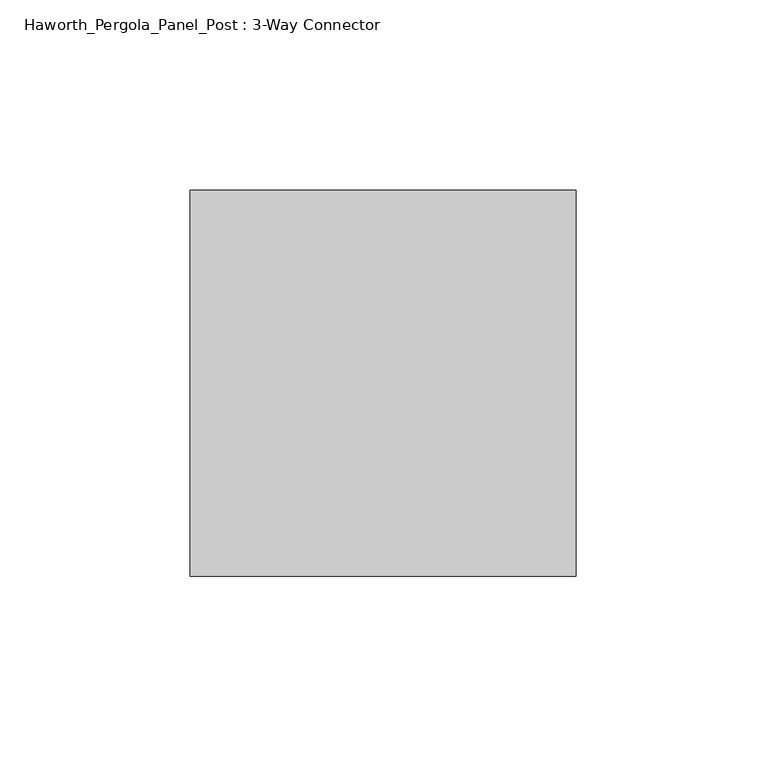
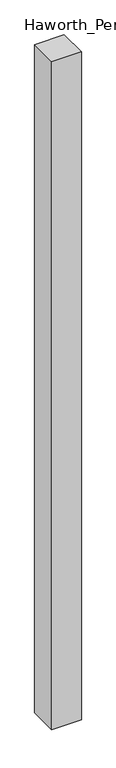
"""IFC4 building model written with IfcOpenShell, lengths in millimetres: furniture geometry, Haworth_Pergola_Panel_Post : 3-Way Connector."""

import ifcopenshell
import ifcopenshell.guid

model = None  # the IFC model being written
_history = None  # IfcOwnerHistory: only IFC2X3 demands one
_inside = {}  # id of a spatial element -> (the spatial element, [elements in it])
_under = {}  # id of a project, library or spatial element -> (it, [spatial elements below it])
_declared = {}  # id of a project -> (the project, [libraries it declares])
_typed = {}  # id of a type object -> (the type object, [elements of that type])
_made_of = {}  # id of a material, layer set ... -> (it, [elements and type objects made of it])


def new_model(schema):
    """Start an empty IFC model of exactly this schema.

    Asked for "IFC4X3", IfcOpenShell would pick the latest addendum, in which some entities
    have other attributes; the version numbers below select the first issue.
    IFC2X3 requires an IfcOwnerHistory on every rooted entity: one is made here for all.
    """
    global model, _history
    if schema == "IFC4X3":
        model = ifcopenshell.file(schema_version=(4, 3, 0, 0))
    else:
        model = ifcopenshell.file(schema=schema)
    _inside.clear()
    _under.clear()
    _declared.clear()
    _typed.clear()
    _made_of.clear()
    _history = None
    if model.schema == "IFC2X3":
        org = make("IfcOrganization", Name="unknown")
        user = make(
            "IfcPersonAndOrganization",
            ThePerson=make("IfcPerson", FamilyName="unknown"),
            TheOrganization=org,
        )
        app = make(
            "IfcApplication",
            ApplicationDeveloper=org,
            Version="unknown",
            ApplicationFullName="unknown",
            ApplicationIdentifier="unknown",
        )
        _history = make(
            "IfcOwnerHistory",
            OwningUser=user,
            OwningApplication=app,
            ChangeAction="ADDED",
            CreationDate=0,
        )
    return model


def make(cls, **values):
    """One entity of the class cls with the attributes given. An attribute that is None is left unset."""
    return model.create_entity(
        cls, **{name: value for name, value in values.items() if value is not None}
    )


def rooted(cls, **values):
    """An entity with a GlobalId (a new one), such as an element, a storey or a relation."""
    return make(cls, GlobalId=ifcopenshell.guid.new(), OwnerHistory=_history, **values)


def si_unit(unit_type, name, prefix=None):
    """IfcSIUnit, for example si_unit("LENGTHUNIT", "METRE", prefix="MILLI")."""
    return make("IfcSIUnit", UnitType=unit_type, Prefix=prefix, Name=name)


def assignment(units):
    """IfcUnitAssignment: the units of a project."""
    return None if units is None else make("IfcUnitAssignment", Units=units)


def point(xyz):
    """IfcCartesianPoint."""
    return None if xyz is None else make("IfcCartesianPoint", Coordinates=xyz)


def direction(xyz):
    """IfcDirection."""
    return None if xyz is None else make("IfcDirection", DirectionRatios=xyz)


def frame(location, z_axis=None, x_axis=None):
    """IfcAxis2Placement3D, a coordinate frame: its origin and axes. An axis left out is left unset."""
    return make(
        "IfcAxis2Placement3D",
        Location=point(location),
        Axis=direction(z_axis),
        RefDirection=direction(x_axis),
    )


def frame_2d(location, x_axis=None):
    """IfcAxis2Placement2D, a coordinate frame in the plane: its origin and x axis."""
    return make(
        "IfcAxis2Placement2D", Location=point(location), RefDirection=direction(x_axis)
    )


def origin():
    """The frame at (0, 0, 0) with its axes left unset."""
    return frame((0.0, 0.0, 0.0))


def origin_with_axes():
    """The frame at (0, 0, 0) with the z axis (0, 0, 1) and the x axis (1, 0, 0) written out."""
    return frame((0.0, 0.0, 0.0), z_axis=(0.0, 0.0, 1.0), x_axis=(1.0, 0.0, 0.0))


def place(relative_to, where):
    """IfcLocalPlacement: puts the frame where relative to a parent placement (None: the world)."""
    return make(
        "IfcLocalPlacement", PlacementRelTo=relative_to, RelativePlacement=where
    )


def context(
    kind, dimensions, precision=None, world=None, true_north=None, identifier=None
):
    """IfcGeometricRepresentationContext, for example the 3D "Model" context."""
    return make(
        "IfcGeometricRepresentationContext",
        ContextIdentifier=identifier,
        ContextType=kind,
        CoordinateSpaceDimension=dimensions,
        Precision=precision,
        WorldCoordinateSystem=world,
        TrueNorth=true_north,
    )


def project(units=None, contexts=None):
    """IfcProject with its units and contexts."""
    return rooted(
        "IfcProject",
        Name="project",
        RepresentationContexts=contexts,
        UnitsInContext=assignment(units),
    )


def spatial(cls, under=None, at=None, **own):
    """A site, building, storey or space (cls), placed at a placement, below another one or the project."""
    s = rooted(cls, ObjectPlacement=at, **own)
    if under is not None:
        _under.setdefault(under.id(), (under, []))[1].append(s)
    return s


def polyline(points):
    """IfcPolyline through the points."""
    return make("IfcPolyline", Points=[point(p) for p in points])


def circle_curve(where, radius):
    """IfcCircle in the frame where."""
    return make("IfcCircle", Position=where, Radius=radius)


def trimmed(basis, trim1, trim2, sense, master):
    """IfcTrimmedCurve: the piece of a basis curve between two trims."""
    return make(
        "IfcTrimmedCurve",
        BasisCurve=basis,
        Trim1=trim1,
        Trim2=trim2,
        SenseAgreement=sense,
        MasterRepresentation=master,
    )


def segment(curve, same_sense, transition):
    """IfcCompositeCurveSegment."""
    return make(
        "IfcCompositeCurveSegment",
        Transition=transition,
        SameSense=same_sense,
        ParentCurve=curve,
    )


def composite_curve(segments, self_intersect=None):
    """IfcCompositeCurve: segments joined end to end."""
    return make("IfcCompositeCurve", Segments=segments, SelfIntersect=self_intersect)


def outline(outer, holes=None, kind="AREA"):
    """IfcArbitraryClosedProfileDef: a profile drawn as a closed curve; with holes, ...WithVoids."""
    if holes is None:
        return make("IfcArbitraryClosedProfileDef", ProfileType=kind, OuterCurve=outer)
    return make(
        "IfcArbitraryProfileDefWithVoids",
        ProfileType=kind,
        OuterCurve=outer,
        InnerCurves=holes,
    )


def extrude(swept, where, along, depth):
    """IfcExtrudedAreaSolid: the profile swept, set in the frame where, extruded along a direction by depth."""
    return make(
        "IfcExtrudedAreaSolid",
        SweptArea=swept,
        Position=where,
        ExtrudedDirection=direction(along),
        Depth=depth,
    )


def shape(context_of_items, identifier, shape_type, items):
    """IfcShapeRepresentation: the items that make up one representation, for example the "Body"."""
    return make(
        "IfcShapeRepresentation",
        ContextOfItems=context_of_items,
        RepresentationIdentifier=identifier,
        RepresentationType=shape_type,
        Items=items,
    )


def source(mapping_origin, context_of_items, identifier, shape_type, items):
    """IfcRepresentationMap: a shape defined once, which mapped items show again and again."""
    return make(
        "IfcRepresentationMap",
        MappingOrigin=mapping_origin,
        MappedRepresentation=shape(context_of_items, identifier, shape_type, items),
    )


def transform(
    local_origin,
    x_axis=None,
    y_axis=None,
    z_axis=None,
    scale=None,
    scale2=None,
    scale3=None,
    uniform=True,
):
    """IfcCartesianTransformationOperator3D, or its non-uniform kind. x_axis, y_axis, z_axis: its Axis1, 2, 3."""
    if uniform:
        return make(
            "IfcCartesianTransformationOperator3D",
            Axis1=direction(x_axis),
            Axis2=direction(y_axis),
            LocalOrigin=point(local_origin),
            Scale=scale,
            Axis3=direction(z_axis),
        )
    return make(
        "IfcCartesianTransformationOperator3DnonUniform",
        Axis1=direction(x_axis),
        Axis2=direction(y_axis),
        LocalOrigin=point(local_origin),
        Scale=scale,
        Axis3=direction(z_axis),
        Scale2=scale2,
        Scale3=scale3,
    )


def mapped(mapping_source, mapping_target):
    """IfcMappedItem: shows the shape of a source again, moved by a transform."""
    return make(
        "IfcMappedItem", MappingSource=mapping_source, MappingTarget=mapping_target
    )


def made_of(thing, what):
    """Note that an element or type object is made of a material, layer set ...; save() writes the relation."""
    if what is not None:
        _made_of.setdefault(what.id(), (what, []))[1].append(thing)
    return thing


def element(
    cls,
    number,
    at=None,
    inside=None,
    cuts=None,
    type_object=None,
    material=None,
    context=None,
    identifier="Body",
    shape_type=None,
    held_by="IfcProductDefinitionShape",
    body=None,
    shapes=None,
    **own,
):
    """One element of the class cls, such as IfcWall. Its Tag is "e" and its number.

    at: its placement. inside: the storey or other place that contains it. cuts: it is an
    opening in that element (IfcRelVoidsElement). A single representation is given by context,
    identifier, shape_type and body (its items); several are given by shapes. held_by: the class
    of the entity that holds the representations. save() writes the other relations.
    """
    e = rooted(cls, Tag="e%d" % number, ObjectPlacement=at, **own)
    if body is not None:
        shapes = [shape(context, identifier, shape_type, body)]
    if shapes is not None:
        e.Representation = make(held_by, Representations=shapes)
    if inside is not None:
        _inside.setdefault(inside.id(), (inside, []))[1].append(e)
    if cuts is not None:
        rooted(
            "IfcRelVoidsElement", RelatingBuildingElement=cuts, RelatedOpeningElement=e
        )
    if type_object is not None:
        _typed.setdefault(type_object.id(), (type_object, []))[1].append(e)
    return made_of(e, material)


def aggregate(whole, parts):
    """IfcRelAggregates: a whole, such as a stair, and the parts it consists of."""
    return rooted("IfcRelAggregates", RelatingObject=whole, RelatedObjects=parts)


def save(model, path):
    """Write the relations noted so far, then the file.

    IfcRelAggregates (storeys below a building ...), IfcRelContainedInSpatialStructure (elements
    in a storey), IfcRelDefinesByType, IfcRelAssociatesMaterial and IfcRelDeclares: one each for
    every whole, place, type object, material and project.
    """
    for whole, parts in _under.values():
        aggregate(whole, parts)
    for where, things in _inside.values():
        rooted(
            "IfcRelContainedInSpatialStructure",
            RelatedElements=things,
            RelatingStructure=where,
        )
    for kind, things in _typed.values():
        rooted("IfcRelDefinesByType", RelatedObjects=things, RelatingType=kind)
    for what, things in _made_of.values():
        rooted("IfcRelAssociatesMaterial", RelatedObjects=things, RelatingMaterial=what)
    for by, libraries in _declared.values():
        rooted("IfcRelDeclares", RelatingContext=by, RelatedDefinitions=libraries)
    model.write(path)


def haworth_pergola_panel_post_3_way_connector_a8890e0e(model_context):
    return source(origin(), model_context, "Body", "SweptSolid", [
        extrude(outline(polyline([(88.9, -50.8), (-12.7, -50.8), (-12.7, 50.8), (88.9, 50.8), (88.9, -50.8)])), frame((0.0, 0.0, 12.7), z_axis=(0.0, 0.0, 1.0), x_axis=(1.0, 0.0, 0.0)), (0.0, 0.0, 1.0), 2425.7),
        extrude(outline(composite_curve([segment(trimmed(circle_curve(frame_2d((38.1, 0.0)), 19.0499983), [point((19.0500017, 0.0))], [point((57.1499983, 0.0))], False, "CARTESIAN"), True, "CONTINUOUS"), segment(trimmed(circle_curve(frame_2d((38.1, 0.0)), 19.0499983), [point((57.1499983, 0.0))], [point((19.0500017, 0.0))], False, "CARTESIAN"), True, "CONTINUOUS")], self_intersect=False)), origin_with_axes(), (0.0, 0.0, 1.0), 12.7),
    ])


if __name__ == "__main__":
    model = new_model("IFC4")
    model_context = context("Model", 3, world=origin())
    ifc_project = project(units=[si_unit("LENGTHUNIT", "METRE", prefix="MILLI")], contexts=[model_context])
    site = spatial("IfcSite", under=ifc_project)
    building = spatial("IfcBuilding", under=site)
    placement = place(None, origin())
    haworth_pergola_panel_post_3_way_connector_shape = haworth_pergola_panel_post_3_way_connector_a8890e0e(model_context)
    element("IfcFurniture", 1, ObjectType="Haworth_Pergola_Panel_Post : 3-Way Connector", at=placement, inside=building, context=model_context, shape_type="MappedRepresentation", body=[
        mapped(haworth_pergola_panel_post_3_way_connector_shape, transform((0.0, 0.0, 0.0), x_axis=(1.0, 0.0, 0.0), y_axis=(0.0, 1.0, 0.0), z_axis=(0.0, 0.0, 1.0))),
    ])
    save(model, "model.ifc")
